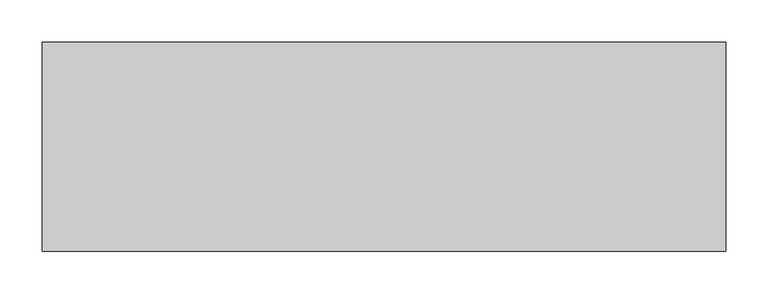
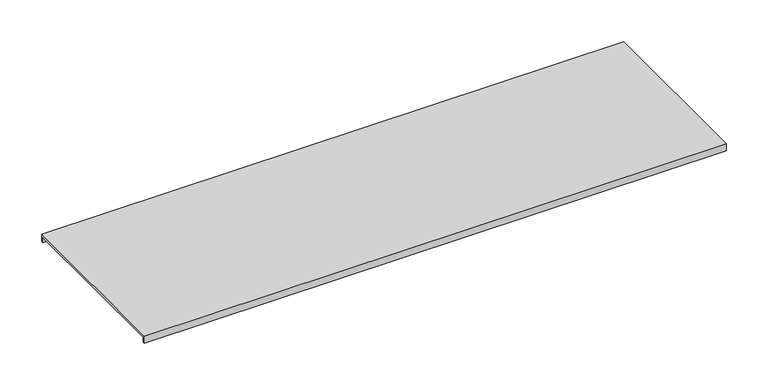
"""IFC4 building model written with IfcOpenShell, lengths in millimetres: cable carrier fitting geometry, ССT_Hyperline_FBTR-CVR-2000 Крышка для оптического лотка : Крышка для оптического лотка."""

from ifc_helpers import new_model, si_unit, frame, origin, place, context, project, spatial, polyline, outline, extrude, source, transform, mapped, element, save


def cable_carrier_fitting_21d1bafc(model_context):
    return source(origin(), model_context, "Body", "SweptSolid", [
        extrude(outline(polyline([(120.0, 50.0), (-120.0, 50.0), (-120.0, 43.0), (-123.0, 43.0), (-123.0, 53.0), (123.0, 53.0), (123.0, 43.0), (120.0, 43.0), (120.0, 50.0)])), frame((-625.0, 0.0, 0.0), z_axis=(1.0, 0.0, 0.0), x_axis=(0.0, 1.0, 0.0)), (0.0, 0.0, 1.0), 805.0),
    ])


if __name__ == "__main__":
    model = new_model("IFC4")
    model_context = context("Model", 3, world=origin())
    ifc_project = project(units=[si_unit("LENGTHUNIT", "METRE", prefix="MILLI")], contexts=[model_context])
    site = spatial("IfcSite", under=ifc_project)
    building = spatial("IfcBuilding", under=site)
    placement = place(None, origin())
    cable_carrier_fitting_shape = cable_carrier_fitting_21d1bafc(model_context)
    element("IfcCableCarrierFitting", 1, ObjectType="ССT_Hyperline_FBTR-CVR-2000 Крышка для оптического лотка : Крышка для оптического лотка", at=placement, inside=building, context=model_context, shape_type="MappedRepresentation", body=[
        mapped(cable_carrier_fitting_shape, transform((0.0, 0.0, 0.0), x_axis=(1.0, 0.0, 0.0), y_axis=(0.0, 1.0, 0.0), z_axis=(0.0, 0.0, 1.0))),
    ])
    save(model, "model.ifc")
